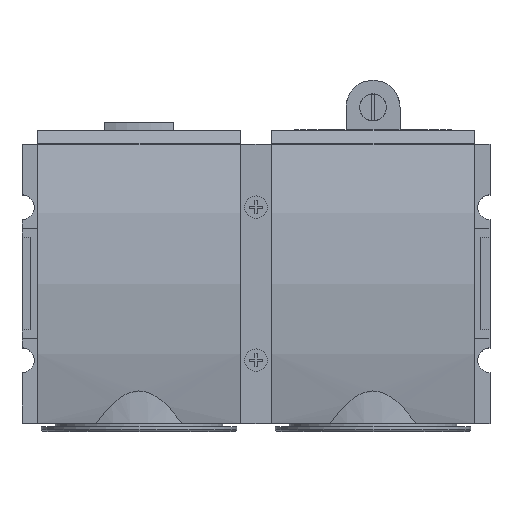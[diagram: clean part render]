
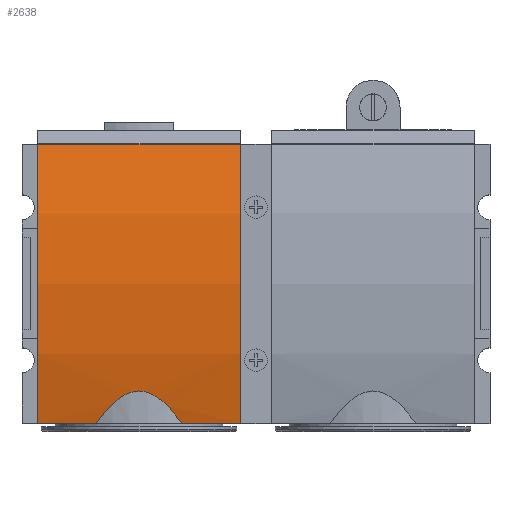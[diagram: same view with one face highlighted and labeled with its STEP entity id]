
A CAD part, top view. The second image highlights one B-rep face of the part: STEP entity #2638.
In plain terms, the highlighted cylindrical face has radius 115 mm (diameter 230 mm), a partial arc.
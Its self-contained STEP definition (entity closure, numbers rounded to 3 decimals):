
#54=CARTESIAN_POINT('',(-22.5,0.,-85.5));
#55=DIRECTION('',(1.,0.,0.));
#56=DIRECTION('',(0.,0.27,0.963));
#57=AXIS2_PLACEMENT_3D('',#54,#55,#56);
#224=CARTESIAN_POINT('',(22.5,0.,-85.5));
#225=DIRECTION('',(1.,0.,0.));
#226=DIRECTION('',(0.,0.27,0.963));
#227=AXIS2_PLACEMENT_3D('',#224,#225,#226);
#627=CARTESIAN_POINT('',(9.581,-31.,25.243));
#628=CARTESIAN_POINT('',(9.396,-30.749,25.313));
#629=CARTESIAN_POINT('',(9.02,-30.249,25.451));
#630=CARTESIAN_POINT('',(8.431,-29.501,25.653));
#631=CARTESIAN_POINT('',(7.824,-28.77,25.844));
#632=CARTESIAN_POINT('',(7.205,-28.065,26.024));
#633=CARTESIAN_POINT('',(6.575,-27.396,26.19));
#634=CARTESIAN_POINT('',(5.923,-26.754,26.345));
#635=CARTESIAN_POINT('',(5.257,-26.157,26.486));
#636=CARTESIAN_POINT('',(4.633,-25.656,26.602));
#637=CARTESIAN_POINT('',(4.077,-25.258,26.692));
#638=CARTESIAN_POINT('',(3.569,-24.934,26.765));
#639=CARTESIAN_POINT('',(3.089,-24.664,26.824));
#640=CARTESIAN_POINT('',(2.628,-24.44,26.873));
#641=CARTESIAN_POINT('',(2.187,-24.258,26.912));
#642=CARTESIAN_POINT('',(1.765,-24.114,26.943));
#643=CARTESIAN_POINT('',(1.358,-24.005,26.967));
#644=CARTESIAN_POINT('',(0.963,-23.925,26.984));
#645=CARTESIAN_POINT('',(0.576,-23.873,26.995));
#646=CARTESIAN_POINT('',(0.191,-23.847,27.));
#647=CARTESIAN_POINT('',(-0.191,-23.847,
27.));
#648=CARTESIAN_POINT('',(-0.576,-23.873,
26.995));
#649=CARTESIAN_POINT('',(-0.963,-23.925,
26.984));
#650=CARTESIAN_POINT('',(-1.358,-24.005,26.967));
#651=CARTESIAN_POINT('',(-1.765,-24.114,26.943));
#652=CARTESIAN_POINT('',(-2.187,-24.258,26.912));
#653=CARTESIAN_POINT('',(-2.628,-24.44,26.873));
#654=CARTESIAN_POINT('',(-3.089,-24.664,26.824));
#655=CARTESIAN_POINT('',(-3.569,-24.934,26.765));
#656=CARTESIAN_POINT('',(-4.077,-25.258,26.692));
#657=CARTESIAN_POINT('',(-4.633,-25.657,26.602));
#658=CARTESIAN_POINT('',(-5.257,-26.158,26.486));
#659=CARTESIAN_POINT('',(-5.923,-26.754,26.345));
#660=CARTESIAN_POINT('',(-6.575,-27.395,26.19));
#661=CARTESIAN_POINT('',(-7.205,-28.065,26.024));
#662=CARTESIAN_POINT('',(-7.825,-28.77,25.844));
#663=CARTESIAN_POINT('',(-8.431,-29.501,25.652));
#664=CARTESIAN_POINT('',(-9.02,-30.249,25.451));
#665=CARTESIAN_POINT('',(-9.396,-30.749,25.313));
#666=CARTESIAN_POINT('',(-9.581,-31.,25.243));
#668=DIRECTION('',(1.,0.,0.));
#669=VECTOR('',#668,45.);
#670=CARTESIAN_POINT('',(-22.5,31.,25.243));
#671=LINE('',#670,#669);
#681=DIRECTION('',(1.,0.,0.));
#682=VECTOR('',#681,12.919);
#683=CARTESIAN_POINT('',(-22.5,-31.,25.243));
#684=LINE('',#683,#682);
#690=DIRECTION('',(1.,0.,0.));
#691=VECTOR('',#690,12.919);
#692=CARTESIAN_POINT('',(9.581,-31.,25.243));
#693=LINE('',#692,#691);
#1537=CARTESIAN_POINT('',(-22.5,31.,25.243));
#1538=CARTESIAN_POINT('',(-22.5,-31.,25.243));
#1539=VERTEX_POINT('',#1537);
#1540=VERTEX_POINT('',#1538);
#1545=CARTESIAN_POINT('',(22.5,31.,25.243));
#1546=CARTESIAN_POINT('',(22.5,-31.,25.243));
#1547=VERTEX_POINT('',#1545);
#1548=VERTEX_POINT('',#1546);
#1665=VERTEX_POINT('',#627);
#1666=VERTEX_POINT('',#666);
#2622=CARTESIAN_POINT('',(-22.5,0.,-85.5));
#2623=DIRECTION('',(1.,0.,0.));
#2624=DIRECTION('',(0.,0.,-1.));
#2625=AXIS2_PLACEMENT_3D('',#2622,#2623,#2624);
#2626=CYLINDRICAL_SURFACE('',#2625,115.);
#2628=ORIENTED_EDGE('',*,*,#2627,.T.);
#2630=ORIENTED_EDGE('',*,*,#2629,.F.);
#2631=ORIENTED_EDGE('',*,*,#1976,.F.);
#2632=ORIENTED_EDGE('',*,*,#2578,.T.);
#2633=ORIENTED_EDGE('',*,*,#2146,.T.);
#2635=ORIENTED_EDGE('',*,*,#2634,.F.);
#2636=EDGE_LOOP('',(#2628,#2630,#2631,#2632,#2633,#2635));
#2637=FACE_OUTER_BOUND('',#2636,.F.);
#2638=ADVANCED_FACE('',(#2637),#2626,.T.);
#58=CIRCLE('',#57,115.);
#228=CIRCLE('',#227,115.);
#667=B_SPLINE_CURVE_WITH_KNOTS('',3,(#627,#628,#629,#630,#631,#632,#633,#634,
#635,#636,#637,#638,#639,#640,#641,#642,#643,#644,#645,#646,#647,#648,#649,#650,
#651,#652,#653,#654,#655,#656,#657,#658,#659,#660,#661,#662,#663,#664,#665,
#666),.UNSPECIFIED.,.F.,.F.,(4,1,1,1,1,1,1,1,1,1,1,1,1,1,1,1,1,1,1,1,1,1,1,1,1,
1,1,1,1,1,1,1,1,1,1,1,1,4),(0.,0.027,0.054,
0.081,0.108,0.135,0.162,
0.189,0.216,0.243,0.27,
0.297,0.324,0.351,0.378,
0.405,0.432,0.459,0.486,
0.514,0.541,0.568,0.595,
0.622,0.649,0.676,0.703,
0.73,0.757,0.784,0.811,
0.838,0.865,0.892,0.919,
0.946,0.973,1.),.UNSPECIFIED.);
#1976=EDGE_CURVE('',#1539,#1540,#58,.T.);
#2146=EDGE_CURVE('',#1547,#1548,#228,.T.);
#2578=EDGE_CURVE('',#1539,#1547,#671,.T.);
#2627=EDGE_CURVE('',#1665,#1666,#667,.T.);
#2629=EDGE_CURVE('',#1540,#1666,#684,.T.);
#2634=EDGE_CURVE('',#1665,#1548,#693,.T.);
